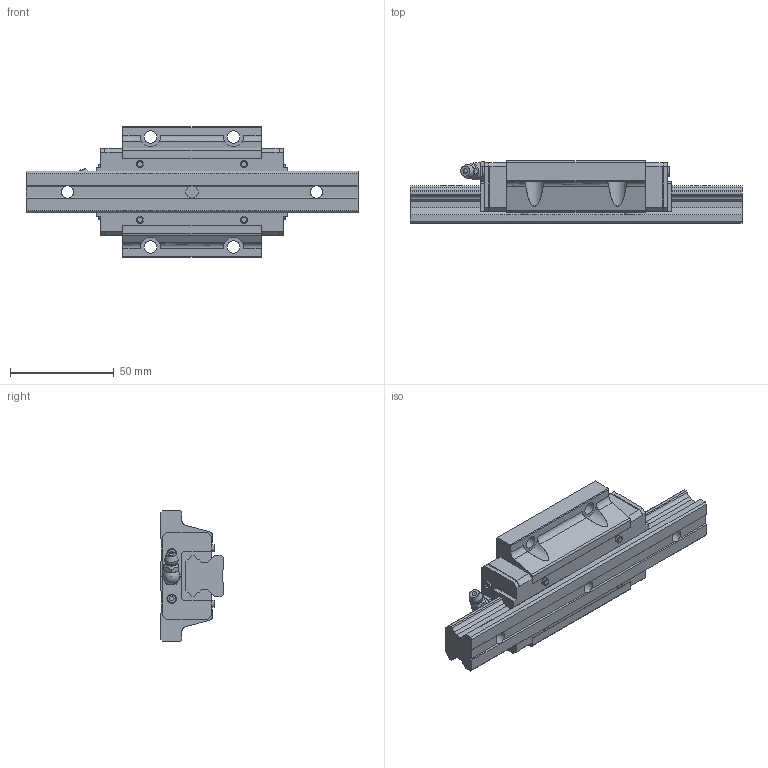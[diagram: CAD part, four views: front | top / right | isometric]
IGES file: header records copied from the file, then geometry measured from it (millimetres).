
Start section: Data from Parasolid IGES Translator 26.0.171, Copyright(c) 2006 Siemens PLM Software. All Rights Reserved.
Global section: file name: HSR20M1LB1SS-160L_G20_0_B-M6F_34_0_0_0.igs; native system: By Siemens PLM Incorporated; preprocessor: XPlus GENERIC/IGES 26.0.171; author: Noname; organization: Noname; date: 20240523.061734; units: millimetre
Bounding box: 160 x 30 x 63 mm (x, y, z)
Surface area: 34947.7 mm2 (no closed solid volume)
Topology: 0 solids, 0 shells, 267 faces, 1424 edges, 1361 vertices
Faces by surface type: extrusion 196, revolution 71
